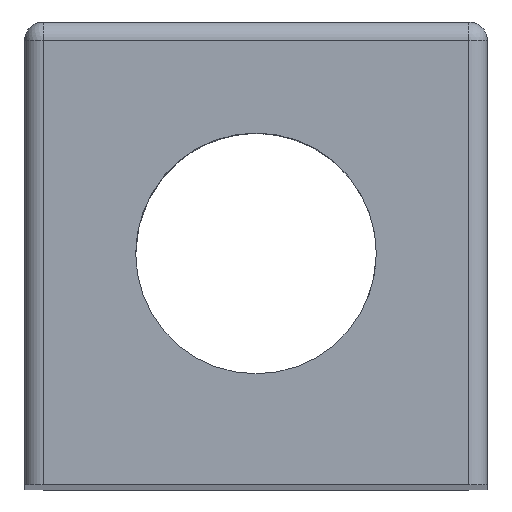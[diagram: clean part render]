
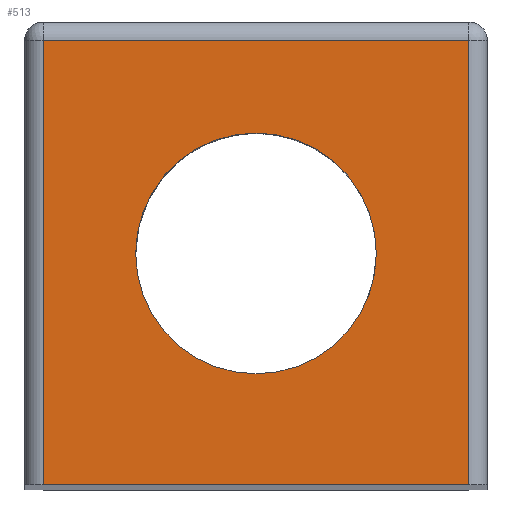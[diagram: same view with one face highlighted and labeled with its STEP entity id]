
A CAD part, top view. The second image highlights one B-rep face of the part: STEP entity #513.
In plain terms, the highlighted planar face has unit normal (0, 0, 1).
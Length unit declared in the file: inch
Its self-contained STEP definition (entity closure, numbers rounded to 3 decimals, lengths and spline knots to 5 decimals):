
#16=FACE_BOUND('',#105,.T.);
#32=PLANE('',#600);
#71=FACE_OUTER_BOUND('',#104,.T.);
#104=EDGE_LOOP('',(#460,#461,#462,#463));
#105=EDGE_LOOP('',(#464,#465));
#120=LINE('',#844,#157);
#139=LINE('',#900,#176);
#140=LINE('',#906,#177);
#141=LINE('',#908,#178);
#157=VECTOR('',#681,0.3937);
#176=VECTOR('',#746,0.3937);
#177=VECTOR('',#755,0.3937);
#178=VECTOR('',#758,0.3937);
#206=CIRCLE('',#598,0.13);
#207=CIRCLE('',#599,0.13);
#229=VERTEX_POINT('',#841);
#230=VERTEX_POINT('',#843);
#244=VERTEX_POINT('',#896);
#245=VERTEX_POINT('',#902);
#248=VERTEX_POINT('',#915);
#249=VERTEX_POINT('',#916);
#283=EDGE_CURVE('',#230,#229,#120,.T.);
#312=EDGE_CURVE('',#244,#229,#139,.T.);
#315=EDGE_CURVE('',#230,#245,#140,.T.);
#316=EDGE_CURVE('',#245,#244,#141,.T.);
#319=EDGE_CURVE('',#248,#249,#206,.T.);
#320=EDGE_CURVE('',#249,#248,#207,.T.);
#460=ORIENTED_EDGE('',*,*,#315,.F.);
#461=ORIENTED_EDGE('',*,*,#283,.T.);
#462=ORIENTED_EDGE('',*,*,#312,.F.);
#463=ORIENTED_EDGE('',*,*,#316,.F.);
#464=ORIENTED_EDGE('',*,*,#319,.T.);
#465=ORIENTED_EDGE('',*,*,#320,.T.);
#513=ADVANCED_FACE('',(#71,#16),#32,.T.);
#598=AXIS2_PLACEMENT_3D('',#917,#767,#768);
#599=AXIS2_PLACEMENT_3D('',#918,#769,#770);
#600=AXIS2_PLACEMENT_3D('',#920,#772,#773);
#681=DIRECTION('',(1.,0.,0.));
#746=DIRECTION('',(0.,-1.,0.));
#755=DIRECTION('',(0.,1.,0.));
#758=DIRECTION('',(1.,0.,0.));
#767=DIRECTION('center_axis',(0.,0.,-1.));
#768=DIRECTION('ref_axis',(1.,0.,0.));
#769=DIRECTION('center_axis',(0.,0.,-1.));
#770=DIRECTION('ref_axis',(1.,0.,0.));
#772=DIRECTION('center_axis',(0.,0.,1.));
#773=DIRECTION('ref_axis',(1.,0.,0.));
#841=CARTESIAN_POINT('',(-0.02,0.,0.));
#843=CARTESIAN_POINT('',(-0.48,0.,0.));
#844=CARTESIAN_POINT('',(-0.5,0.,0.));
#896=CARTESIAN_POINT('',(-0.02,0.48,0.));
#900=CARTESIAN_POINT('',(-0.02,0.,0.));
#902=CARTESIAN_POINT('',(-0.48,0.48,0.));
#906=CARTESIAN_POINT('',(-0.48,0.,0.));
#908=CARTESIAN_POINT('',(-0.375,0.48,0.));
#915=CARTESIAN_POINT('',(-0.12,0.25,0.));
#916=CARTESIAN_POINT('',(-0.38,0.25,0.));
#917=CARTESIAN_POINT('Origin',(-0.25,0.25,0.));
#918=CARTESIAN_POINT('Origin',(-0.25,0.25,0.));
#920=CARTESIAN_POINT('Origin',(-0.5,0.,0.));
